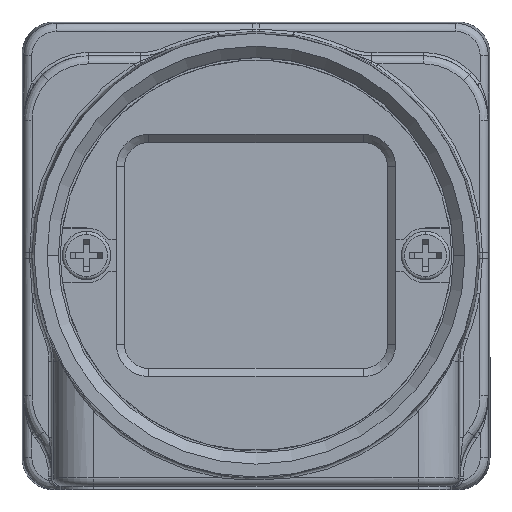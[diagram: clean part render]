
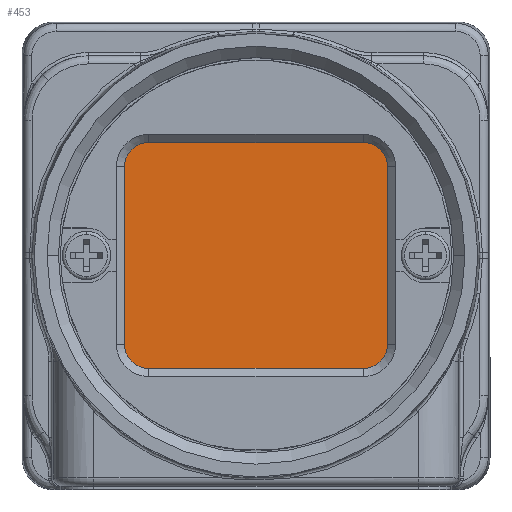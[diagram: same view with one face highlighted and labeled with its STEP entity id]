
A CAD part, top view. The second image highlights one B-rep face of the part: STEP entity #453.
In plain terms, the highlighted planar face has unit normal (0, 0, 1).
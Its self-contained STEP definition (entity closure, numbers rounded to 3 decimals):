
#453 = ADVANCED_FACE ( 'NONE', ( #36611 ), #62926, .T. ) ;
#473 = EDGE_CURVE ( 'NONE', #10343, #615, #84501, .T. ) ;
#615 = VERTEX_POINT ( 'NONE', #54193 ) ;
#2947 = AXIS2_PLACEMENT_3D ( 'NONE', #12099, #84031, #51193 ) ;
#3382 = CIRCLE ( 'NONE', #15701, 1.5 ) ;
#4805 = CARTESIAN_POINT ( 'NONE',  ( 6.65, 7., -11.5 ) ) ;
#9687 = CIRCLE ( 'NONE', #52128, 1.5 ) ;
#10196 = DIRECTION ( 'NONE',  ( -1., 0., 0. ) ) ;
#10343 = VERTEX_POINT ( 'NONE', #63722 ) ;
#12099 = CARTESIAN_POINT ( 'NONE',  ( 6.65, 5.5, -11.5 ) ) ;
#12362 = CARTESIAN_POINT ( 'NONE',  ( 8.15, -5.5, -11.5 ) ) ;
#13251 = EDGE_LOOP ( 'NONE', ( #44766, #81326, #48369, #53610, #16747, #46471, #79246, #82225 ) ) ;
#13617 = EDGE_CURVE ( 'NONE', #57888, #37122, #75935, .T. ) ;
#14883 = AXIS2_PLACEMENT_3D ( 'NONE', #31460, #51706, #78899 ) ;
#15701 = AXIS2_PLACEMENT_3D ( 'NONE', #78366, #64526, #84410 ) ;
#16747 = ORIENTED_EDGE ( 'NONE', *, *, #83960, .F. ) ;
#17957 = VERTEX_POINT ( 'NONE', #28106 ) ;
#18970 = DIRECTION ( 'NONE',  ( 0., 0., 1. ) ) ;
#20441 = EDGE_CURVE ( 'NONE', #36129, #76947, #42823, .T. ) ;
#22423 = EDGE_CURVE ( 'NONE', #17957, #36129, #3382, .T. ) ;
#24524 = DIRECTION ( 'NONE',  ( 0., 0., -1. ) ) ;
#25410 = CARTESIAN_POINT ( 'NONE',  ( -8.15, 5.5, -11.5 ) ) ;
#28106 = CARTESIAN_POINT ( 'NONE',  ( 8.15, -5.5, -11.5 ) ) ;
#29972 = CIRCLE ( 'NONE', #14883, 1.5 ) ;
#31460 = CARTESIAN_POINT ( 'NONE',  ( -6.65, -5.5, -11.5 ) ) ;
#36129 = VERTEX_POINT ( 'NONE', #81059 ) ;
#36611 = FACE_OUTER_BOUND ( 'NONE', #13251, .T. ) ;
#37122 = VERTEX_POINT ( 'NONE', #4805 ) ;
#39134 = DIRECTION ( 'NONE',  ( 1., 0., 0. ) ) ;
#42725 = DIRECTION ( 'NONE',  ( 1., 0., 0. ) ) ;
#42823 = LINE ( 'NONE', #82521, #82588 ) ;
#43167 = CARTESIAN_POINT ( 'NONE',  ( 6.65, 7., -11.5 ) ) ;
#43936 = DIRECTION ( 'NONE',  ( -1., 0., 0. ) ) ;
#44766 = ORIENTED_EDGE ( 'NONE', *, *, #65748, .F. ) ;
#45244 = CARTESIAN_POINT ( 'NONE',  ( 0., 0., -11.5 ) ) ;
#46471 = ORIENTED_EDGE ( 'NONE', *, *, #20441, .F. ) ;
#48369 = ORIENTED_EDGE ( 'NONE', *, *, #81034, .F. ) ;
#51193 = DIRECTION ( 'NONE',  ( -1., 0., 0. ) ) ;
#51706 = DIRECTION ( 'NONE',  ( 0., 0., -1. ) ) ;
#52128 = AXIS2_PLACEMENT_3D ( 'NONE', #56793, #24524, #43936 ) ;
#53610 = ORIENTED_EDGE ( 'NONE', *, *, #473, .F. ) ;
#54193 = CARTESIAN_POINT ( 'NONE',  ( -8.15, 5.5, -11.5 ) ) ;
#56793 = CARTESIAN_POINT ( 'NONE',  ( -6.65, 5.5, -11.5 ) ) ;
#57888 = VERTEX_POINT ( 'NONE', #61752 ) ;
#58604 = CARTESIAN_POINT ( 'NONE',  ( -6.65, -7., -11.5 ) ) ;
#61752 = CARTESIAN_POINT ( 'NONE',  ( -6.65, 7., -11.5 ) ) ;
#62714 = DIRECTION ( 'NONE',  ( 0., -1., 0. ) ) ;
#62926 = PLANE ( 'NONE',  #70425 ) ;
#63722 = CARTESIAN_POINT ( 'NONE',  ( -8.15, -5.5, -11.5 ) ) ;
#64526 = DIRECTION ( 'NONE',  ( 0., 0., -1. ) ) ;
#64955 = VECTOR ( 'NONE', #78025, 1000. ) ;
#65748 = EDGE_CURVE ( 'NONE', #37122, #74657, #84094, .T. ) ;
#70425 = AXIS2_PLACEMENT_3D ( 'NONE', #45244, #18970, #39134 ) ;
#70604 = VECTOR ( 'NONE', #42725, 1000. ) ;
#71325 = LINE ( 'NONE', #12362, #82325 ) ;
#72511 = CARTESIAN_POINT ( 'NONE',  ( 8.15, 5.5, -11.5 ) ) ;
#74274 = EDGE_CURVE ( 'NONE', #74657, #17957, #71325, .T. ) ;
#74657 = VERTEX_POINT ( 'NONE', #72511 ) ;
#75935 = LINE ( 'NONE', #43167, #70604 ) ;
#76947 = VERTEX_POINT ( 'NONE', #58604 ) ;
#78025 = DIRECTION ( 'NONE',  ( 0., 1., 0. ) ) ;
#78366 = CARTESIAN_POINT ( 'NONE',  ( 6.65, -5.5, -11.5 ) ) ;
#78899 = DIRECTION ( 'NONE',  ( -1., 0., 0. ) ) ;
#79246 = ORIENTED_EDGE ( 'NONE', *, *, #22423, .F. ) ;
#81034 = EDGE_CURVE ( 'NONE', #615, #57888, #9687, .T. ) ;
#81059 = CARTESIAN_POINT ( 'NONE',  ( 6.65, -7., -11.5 ) ) ;
#81326 = ORIENTED_EDGE ( 'NONE', *, *, #13617, .F. ) ;
#82225 = ORIENTED_EDGE ( 'NONE', *, *, #74274, .F. ) ;
#82325 = VECTOR ( 'NONE', #62714, 1000. ) ;
#82521 = CARTESIAN_POINT ( 'NONE',  ( -6.65, -7., -11.5 ) ) ;
#82588 = VECTOR ( 'NONE', #10196, 1000. ) ;
#83960 = EDGE_CURVE ( 'NONE', #76947, #10343, #29972, .T. ) ;
#84031 = DIRECTION ( 'NONE',  ( 0., 0., -1. ) ) ;
#84094 = CIRCLE ( 'NONE', #2947, 1.5 ) ;
#84410 = DIRECTION ( 'NONE',  ( -1., 0., 0. ) ) ;
#84501 = LINE ( 'NONE', #25410, #64955 ) ;
